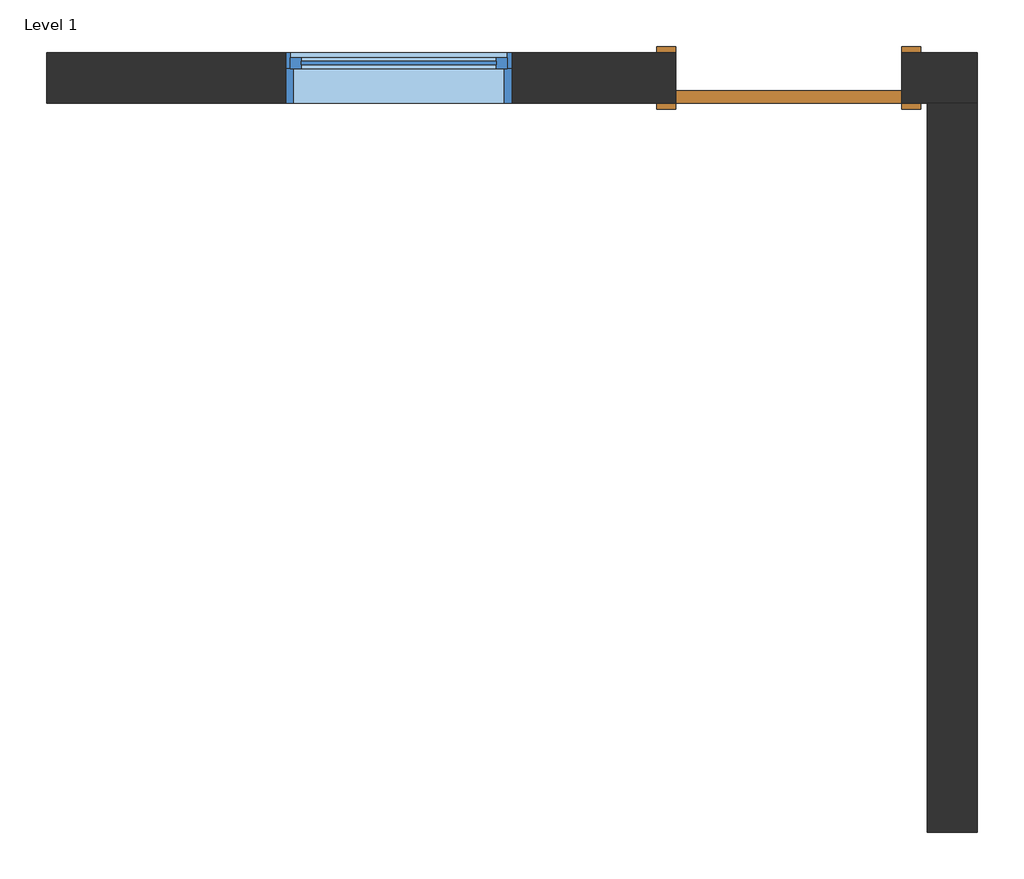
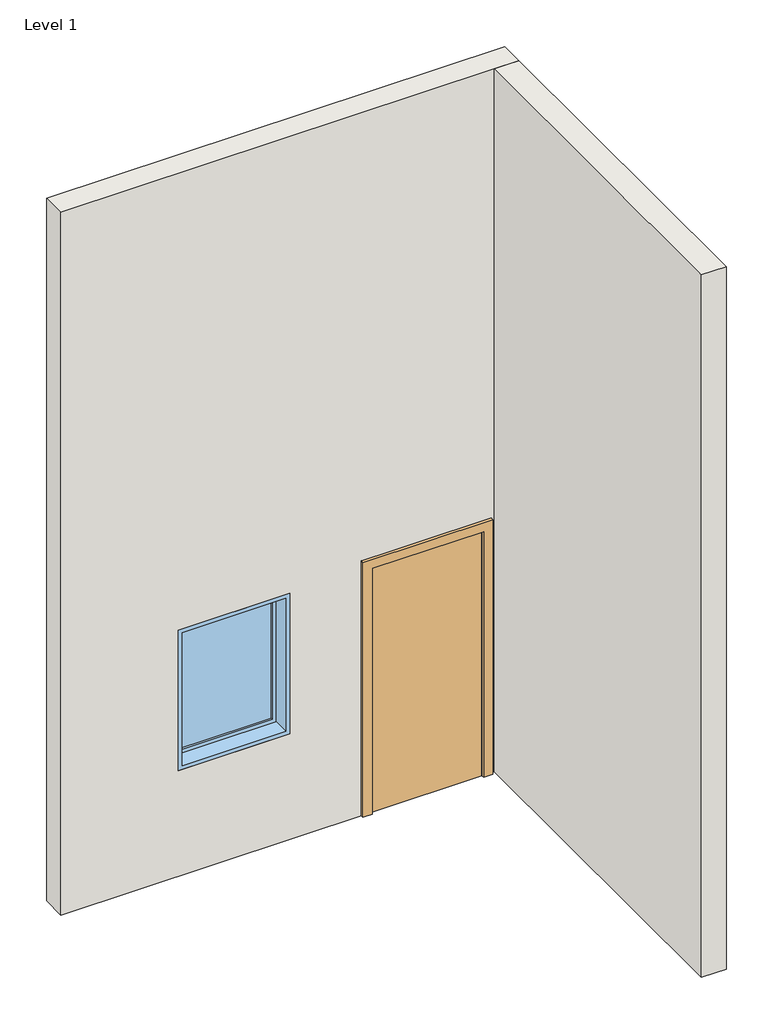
# One storey: 2 walls, 1 door, 1 window.
"""IFC4 building model written with IfcOpenShell, lengths in millimetres."""

from ifc_helpers import new_model, si_unit, origin, origin_with_axes, place, context, project, spatial, polyline, outline, extrude, faceted_brep, transform, mapped, element, save
from components import door_719f80de, window_e2841890

model = new_model("IFC4")

# Units and contexts
model_context = context("Model", 3, world=origin())
ifc_project = project(units=[si_unit("LENGTHUNIT", "METRE", prefix="MILLI")], contexts=[model_context])

# Site, building, storey
site = spatial("IfcSite", under=ifc_project)
building = spatial("IfcBuilding", under=site)
storey = spatial("IfcBuildingStorey", under=building, Name="Level 1", Elevation=0.0)

# Door
placement = place(None, origin())
door_shape = door_719f80de(model_context)
element("IfcDoor", 1, ObjectType="Single-Flush : 36\" x 84\"", at=placement, inside=storey, context=model_context, shape_type="MappedRepresentation", body=[
    mapped(door_shape, transform((3022.3397098, -640.2838621, 0.0), x_axis=(1.0, 0.0, 0.0), y_axis=(0.0, 1.0, 0.0), z_axis=(0.0, 0.0, 1.0))),
])

# Walls
element("IfcWall", 2, ObjectType="Generic - 8\"", at=placement, inside=storey, context=model_context, shape_type="Brep", body=[
    faceted_brep([(3479.5397098, -741.8838621, 2133.6), (3479.5397098, -741.8838621, 0.0), (3581.1397098, -741.8838621, 0.0), (3784.3397098, -741.8838621, 0.0), (3784.3397098, -741.8838621, 6096.0), (3581.1397098, -741.8838621, 6096.0), (25.1397098, -741.8838621, 6096.0), (25.1397098, -741.8838621, 0.0), (2565.1397098, -741.8838621, 0.0), (2565.1397098, -741.8838621, 2133.6), (1904.7397098, -741.8838621, 2133.6), (1904.7397098, -741.8838621, 914.4), (990.3397098, -741.8838621, 914.4), (990.3397098, -741.8838621, 2133.6), (3784.3397098, -538.6838621, 0.0), (3479.5397098, -538.6838621, 0.0), (3479.5397098, -538.6838621, 2133.6), (2565.1397098, -538.6838621, 2133.6), (2565.1397098, -538.6838621, 0.0), (25.1397098, -538.6838621, 0.0), (25.1397098, -538.6838621, 6096.0), (3784.3397098, -538.6838621, 6096.0), (1904.7397098, -538.6838621, 2133.6), (990.3397098, -538.6838621, 2133.6), (990.3397098, -538.6838621, 914.4), (1904.7397098, -538.6838621, 914.4)], [[[0, 1, 2, 3, 4, 5, 6, 7, 8, 9], [10, 11, 12, 13]], [[14, 15, 16, 17, 18, 19, 20, 21], [22, 23, 24, 25]], [[3, 2, 1, 15, 14]], [[8, 7, 19, 18]], [[6, 5, 4, 21, 20]], [[7, 6, 20, 19]], [[4, 3, 14, 21]], [[16, 15, 1, 0]], [[17, 16, 0, 9]], [[18, 17, 9, 8]], [[11, 10, 22, 25]], [[12, 11, 25, 24]], [[13, 12, 24, 23]], [[10, 13, 23, 22]]]),
])
element("IfcWall", 3, ObjectType="Generic - 8\"", at=placement, inside=storey, context=model_context, shape_type="SweptSolid", body=[
    extrude(outline(polyline([(3581.1397098, -3688.2838621), (3581.1397098, -741.8838621), (3784.3397098, -741.8838621), (3784.3397098, -3688.2838621), (3581.1397098, -3688.2838621)])), origin_with_axes(), (0.0, 0.0, 1.0), 6096.0),
])

# Window
window_shape = window_e2841890(model_context)
element("IfcWindow", 4, ObjectType="Fixed : 36\" x 48\"", at=placement, inside=storey, context=model_context, shape_type="MappedRepresentation", body=[
    mapped(window_shape, transform((1485.6397098, -640.2838621, 0.0), x_axis=(1.0, 0.0, 0.0), y_axis=(0.0, 1.0, 0.0), z_axis=(0.0, 0.0, 1.0))),
])

save(model, "model.ifc")
